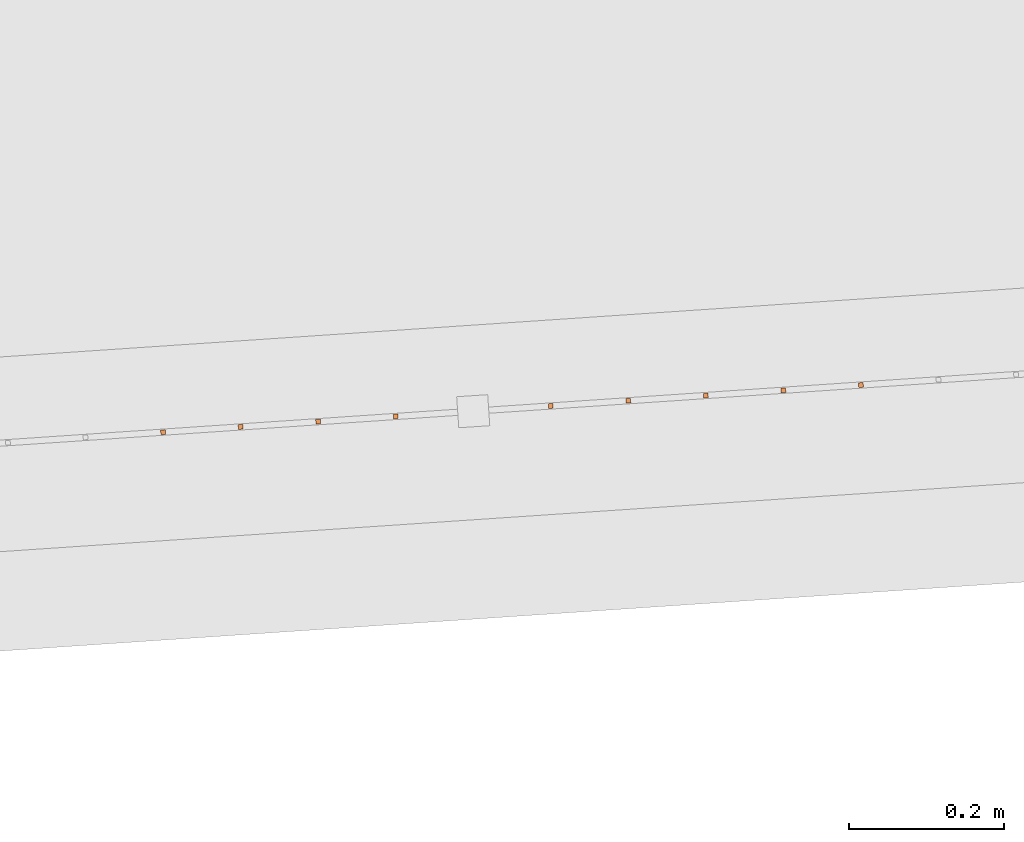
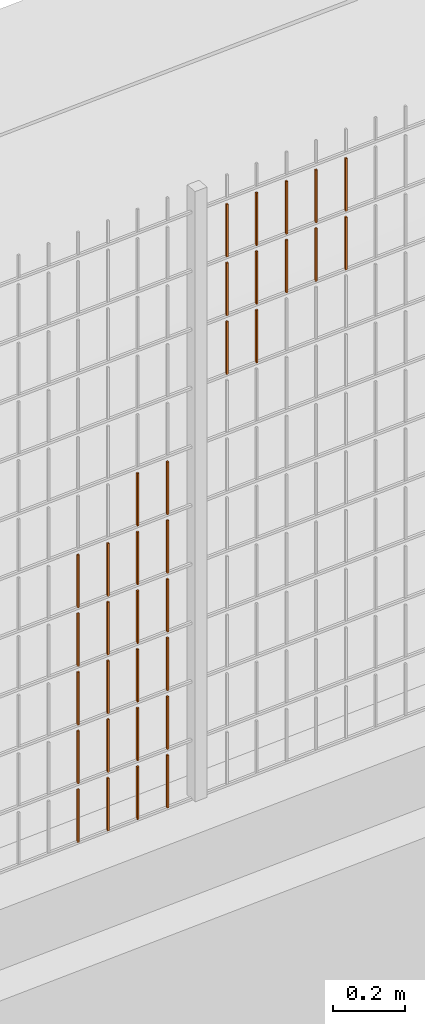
# One storey, part 203 of 1809: 34 proxies, 1 element without a shape of its own.
"""IFC2X3 building model written with IfcOpenShell, lengths in millimetres."""

from ifc_helpers import new_model, entity, si_unit, converted_unit, derived_unit, money_unit, direction, frame, origin_with_axes, place, context, subcontext, project, spatial, faceted_brep, source, transform, mapped, material, type_object, element, aggregate, save


model = new_model("IFC2X3")

# Units and contexts
model_context = context("Model", 3, precision=0.01, world=origin_with_axes(), true_north=direction((0.0, 1.0)))
body_context = subcontext(model_context, "Body", "Model", "MODEL_VIEW")
ifc_project = project(units=[si_unit("LENGTHUNIT", "METRE", prefix="MILLI"), si_unit("AREAUNIT", "SQUARE_METRE"), si_unit("VOLUMEUNIT", "CUBIC_METRE"), converted_unit("PLANEANGLEUNIT", "DEGREE", entity("IfcPlaneAngleMeasure", 0.0174532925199), si_unit("PLANEANGLEUNIT", "RADIAN"), dimensions=[0, 0, 0, 0, 0, 0, 0]), si_unit("SOLIDANGLEUNIT", "STERADIAN"), money_unit("EUR"), converted_unit("TIMEUNIT", "Year", entity("IfcTimeMeasure", 31556926.0), si_unit("TIMEUNIT", "SECOND"), dimensions=[0, 0, 1, 0, 0, 0, 0]), si_unit("MASSUNIT", "GRAM", prefix="KILO"), si_unit("THERMODYNAMICTEMPERATUREUNIT", "DEGREE_CELSIUS"), si_unit("LUMINOUSINTENSITYUNIT", "LUMEN"), si_unit("ENERGYUNIT", "JOULE", prefix="MEGA"), derived_unit("THERMALCONDUCTANCEUNIT", [(si_unit("POWERUNIT", "WATT"), 1), (si_unit("LENGTHUNIT", "METRE"), -1), (si_unit("THERMODYNAMICTEMPERATUREUNIT", "KELVIN"), -1)]), derived_unit("SPECIFICHEATCAPACITYUNIT", [(si_unit("ENERGYUNIT", "JOULE"), 1), (si_unit("MASSUNIT", "GRAM", prefix="KILO"), -1), (si_unit("THERMODYNAMICTEMPERATUREUNIT", "KELVIN"), -1)]), derived_unit("MASSDENSITYUNIT", [(si_unit("MASSUNIT", "GRAM", prefix="KILO"), 1), (si_unit("VOLUMEUNIT", "CUBIC_METRE"), -1)])], contexts=[model_context])

# Site, building, storey
site_placement = place(None, origin_with_axes())
site = spatial("IfcSite", under=ifc_project, at=site_placement, Name="Politse- ja Piirivalveameti ning Päästeameti ühishoone", CompositionType="ELEMENT")
building_placement = place(site_placement, origin_with_axes())
building = spatial("IfcBuilding", under=site, at=building_placement, Name="Politse- ja Piirivalveameti ning Päästeameti ühishoone", CompositionType="ELEMENT")
storey_placement = place(building_placement, origin_with_axes())
storey = spatial("IfcBuildingStorey", under=building, at=storey_placement, Name="Esimene korrus", CompositionType="ELEMENT", Elevation=0.0)

# Proxies
building_element_proxy_type_1 = type_object("IfcBuildingElementProxyType", Name="Railing Type", PredefinedType="NOTDEFINED")
proxy_1_placement = place(storey_placement, frame((89252.001212, -29183.4766571, 203.661247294), z_axis=(0.0, 0.0, 1.0), x_axis=(1.0, 0.0, 0.0)))
proxy_1 = element("IfcBuildingElementProxy", 1, at=proxy_1_placement, inside=storey, type_object=building_element_proxy_type_1, Name="PIIRDEAED")
ifc_material = material(Name="ET-03_Raud")
building_element_proxy_type_2 = type_object("IfcBuildingElementProxyType", Name="IfcBuildingElementProxy", PredefinedType="NOTDEFINED")
shared_shape_1 = source(origin_with_axes(), body_context, "Body", "Brep", [
    faceted_brep([(3.0, 3.0, -0.000752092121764), (-3.0, 3.0, -0.000752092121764), (-3.0, 3.0, 179.99926046), (3.0, 3.0, 179.99926046), (3.0, -3.0, 0.000752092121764), (-3.0, -3.0, 0.000752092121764), (-3.0, -3.0, 180.000764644), (3.0, -3.0, 180.000764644)], [[[0, 1, 2, 3]], [[0, 4, 5, 1]], [[1, 5, 6, 2]], [[3, 2, 6, 7]], [[4, 0, 3, 7]], [[5, 4, 7, 6]]]),
])
proxy_2_placement = place(proxy_1_placement, frame((-65078.3970664, -21693.5748864, 810.882226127), z_axis=(0.0, 0.0, 1.0), x_axis=(1.0, 0.0, 0.0)))
proxy_2 = element("IfcBuildingElementProxy", 2, at=proxy_2_placement, type_object=building_element_proxy_type_2, material=ifc_material, Name="BALUSTER - 001", context=body_context, shape_type="MappedRepresentation", body=[
    mapped(shared_shape_1, transform((0.0, 0.0, 0.0), x_axis=(-0.0673926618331, 0.997726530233, 0.0), y_axis=(-0.997726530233, -0.0673926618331, 0.0), z_axis=(0.0, 0.0, 1.0))),
])
shared_shape_2 = source(origin_with_axes(), body_context, "Body", "Brep", [
    faceted_brep([(3.0, 3.0, -0.000752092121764), (-3.0, 3.0, -0.000752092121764), (-3.0, 3.0, 179.99926046), (3.0, 3.0, 179.99926046), (3.0, -3.0, 0.000752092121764), (-3.0, -3.0, 0.000752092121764), (-3.0, -3.0, 180.000764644), (3.0, -3.0, 180.000764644)], [[[0, 1, 2, 3]], [[0, 4, 5, 1]], [[1, 5, 6, 2]], [[3, 2, 6, 7]], [[4, 0, 3, 7]], [[5, 4, 7, 6]]]),
])
proxy_3_placement = place(proxy_1_placement, frame((-65078.3970664, -21693.5748864, 210.882226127), z_axis=(0.0, 0.0, 1.0), x_axis=(1.0, 0.0, 0.0)))
proxy_3 = element("IfcBuildingElementProxy", 3, at=proxy_3_placement, type_object=building_element_proxy_type_2, material=ifc_material, Name="BALUSTER - 001", context=body_context, shape_type="MappedRepresentation", body=[
    mapped(shared_shape_2, transform((0.0, 0.0, 0.0), x_axis=(-0.0673926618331, 0.997726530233, 0.0), y_axis=(-0.997726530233, -0.0673926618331, 0.0), z_axis=(0.0, 0.0, 1.0))),
])
proxy_4_placement = place(proxy_1_placement, frame((-65078.3970664, -21693.5748864, 610.882226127), z_axis=(0.0, 0.0, 1.0), x_axis=(1.0, 0.0, 0.0)))
proxy_4 = element("IfcBuildingElementProxy", 4, at=proxy_4_placement, type_object=building_element_proxy_type_2, material=ifc_material, Name="BALUSTER - 001", context=body_context, shape_type="MappedRepresentation", body=[
    mapped(shared_shape_2, transform((0.0, 0.0, 0.0), x_axis=(-0.0673926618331, 0.997726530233, 0.0), y_axis=(-0.997726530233, -0.0673926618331, 0.0), z_axis=(0.0, 0.0, 1.0))),
])
shared_shape_3 = source(origin_with_axes(), body_context, "Body", "Brep", [
    faceted_brep([(3.0, 3.0, -0.000752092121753), (-3.0, 3.0, -0.000752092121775), (-3.0, 3.0, 179.99926046), (3.0, 3.0, 179.99926046), (3.0, -3.0, 0.000752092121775), (-3.0, -3.0, 0.000752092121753), (-3.0, -3.0, 180.000764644), (3.0, -3.0, 180.000764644)], [[[0, 1, 2, 3]], [[0, 4, 5, 1]], [[1, 5, 6, 2]], [[3, 2, 6, 7]], [[4, 0, 3, 7]], [[5, 4, 7, 6]]]),
])
proxy_5_placement = place(proxy_1_placement, frame((-64779.0791073, -21673.3570879, 10.9574353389), z_axis=(0.0, 0.0, 1.0), x_axis=(1.0, 0.0, 0.0)))
proxy_5 = element("IfcBuildingElementProxy", 5, at=proxy_5_placement, type_object=building_element_proxy_type_2, material=ifc_material, Name="BALUSTER - 001", context=body_context, shape_type="MappedRepresentation", body=[
    mapped(shared_shape_3, transform((0.0, 0.0, 0.0), x_axis=(-0.0673926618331, 0.997726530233, 0.0), y_axis=(-0.997726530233, -0.0673926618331, 0.0), z_axis=(0.0, 0.0, 1.0))),
])
proxy_6_placement = place(proxy_1_placement, frame((-64779.0791073, -21673.3570879, 210.957435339), z_axis=(0.0, 0.0, 1.0), x_axis=(1.0, 0.0, 0.0)))
proxy_6 = element("IfcBuildingElementProxy", 6, at=proxy_6_placement, type_object=building_element_proxy_type_2, material=ifc_material, Name="BALUSTER - 001", context=body_context, shape_type="MappedRepresentation", body=[
    mapped(shared_shape_3, transform((0.0, 0.0, 0.0), x_axis=(-0.0673926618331, 0.997726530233, 0.0), y_axis=(-0.997726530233, -0.0673926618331, 0.0), z_axis=(0.0, 0.0, 1.0))),
])
shared_shape_4 = source(origin_with_axes(), body_context, "Body", "Brep", [
    faceted_brep([(3.0, 3.0, -0.000752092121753), (-3.0, 3.0, -0.000752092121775), (-3.0, 3.0, 179.99926046), (3.0, 3.0, 179.99926046), (3.0, -3.0, 0.000752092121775), (-3.0, -3.0, 0.000752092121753), (-3.0, -3.0, 180.000764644), (3.0, -3.0, 180.000764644)], [[[0, 1, 2, 3]], [[0, 4, 5, 1]], [[1, 5, 6, 2]], [[3, 2, 6, 7]], [[4, 0, 3, 7]], [[5, 4, 7, 6]]]),
])
proxy_7_placement = place(proxy_1_placement, frame((-64779.0791073, -21673.3570879, 410.957435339), z_axis=(0.0, 0.0, 1.0), x_axis=(1.0, 0.0, 0.0)))
proxy_7 = element("IfcBuildingElementProxy", 7, at=proxy_7_placement, type_object=building_element_proxy_type_2, material=ifc_material, Name="BALUSTER - 001", context=body_context, shape_type="MappedRepresentation", body=[
    mapped(shared_shape_4, transform((0.0, 0.0, 0.0), x_axis=(-0.0673926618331, 0.997726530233, 0.0), y_axis=(-0.997726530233, -0.0673926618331, 0.0), z_axis=(0.0, 0.0, 1.0))),
])
shared_shape_5 = source(origin_with_axes(), body_context, "Body", "Brep", [
    faceted_brep([(3.0, 3.0, -0.000752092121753), (-3.0, 3.0, -0.000752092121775), (-3.0, 3.0, 179.99926046), (3.0, 3.0, 179.99926046), (3.0, -3.0, 0.000752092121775), (-3.0, -3.0, 0.000752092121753), (-3.0, -3.0, 180.000764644), (3.0, -3.0, 180.000764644)], [[[0, 1, 2, 3]], [[0, 4, 5, 1]], [[1, 5, 6, 2]], [[3, 2, 6, 7]], [[4, 0, 3, 7]], [[5, 4, 7, 6]]]),
])
proxy_8_placement = place(proxy_1_placement, frame((-64779.0791073, -21673.3570879, 610.957435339), z_axis=(0.0, 0.0, 1.0), x_axis=(1.0, 0.0, 0.0)))
proxy_8 = element("IfcBuildingElementProxy", 8, at=proxy_8_placement, type_object=building_element_proxy_type_2, material=ifc_material, Name="BALUSTER - 001", context=body_context, shape_type="MappedRepresentation", body=[
    mapped(shared_shape_5, transform((0.0, 0.0, 0.0), x_axis=(-0.0673926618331, 0.997726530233, 0.0), y_axis=(-0.997726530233, -0.0673926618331, 0.0), z_axis=(0.0, 0.0, 1.0))),
])
shared_shape_6 = source(origin_with_axes(), body_context, "Body", "Brep", [
    faceted_brep([(3.0, 3.0, -0.000752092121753), (-3.0, 3.0, -0.000752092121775), (-3.0, 3.0, 179.99926046), (3.0, 3.0, 179.99926046), (3.0, -3.0, 0.000752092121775), (-3.0, -3.0, 0.000752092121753), (-3.0, -3.0, 180.000764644), (3.0, -3.0, 180.000764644)], [[[0, 1, 2, 3]], [[0, 4, 5, 1]], [[1, 5, 6, 2]], [[3, 2, 6, 7]], [[4, 0, 3, 7]], [[5, 4, 7, 6]]]),
])
proxy_9_placement = place(proxy_1_placement, frame((-64779.0791073, -21673.3570879, 810.957435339), z_axis=(0.0, 0.0, 1.0), x_axis=(1.0, 0.0, 0.0)))
proxy_9 = element("IfcBuildingElementProxy", 9, at=proxy_9_placement, type_object=building_element_proxy_type_2, material=ifc_material, Name="BALUSTER - 001", context=body_context, shape_type="MappedRepresentation", body=[
    mapped(shared_shape_6, transform((0.0, 0.0, 0.0), x_axis=(-0.0673926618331, 0.997726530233, 0.0), y_axis=(-0.997726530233, -0.0673926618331, 0.0), z_axis=(0.0, 0.0, 1.0))),
])
shared_shape_7 = source(origin_with_axes(), body_context, "Body", "Brep", [
    faceted_brep([(3.0, 3.0, -0.000752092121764), (-3.0, 3.0, -0.000752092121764), (-3.0, 3.0, 179.99926046), (3.0, 3.0, 179.99926046), (3.0, -3.0, 0.000752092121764), (-3.0, -3.0, 0.000752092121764), (-3.0, -3.0, 180.000764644), (3.0, -3.0, 180.000764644)], [[[0, 1, 2, 3]], [[0, 4, 5, 1]], [[1, 5, 6, 2]], [[3, 2, 6, 7]], [[4, 0, 3, 7]], [[5, 4, 7, 6]]]),
])
proxy_10_placement = place(proxy_1_placement, frame((-65078.3970664, -21693.5748864, 10.8822261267), z_axis=(0.0, 0.0, 1.0), x_axis=(1.0, 0.0, 0.0)))
proxy_10 = element("IfcBuildingElementProxy", 10, at=proxy_10_placement, type_object=building_element_proxy_type_2, material=ifc_material, Name="BALUSTER - 001", context=body_context, shape_type="MappedRepresentation", body=[
    mapped(shared_shape_7, transform((0.0, 0.0, 0.0), x_axis=(-0.0673926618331, 0.997726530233, 0.0), y_axis=(-0.997726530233, -0.0673926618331, 0.0), z_axis=(0.0, 0.0, 1.0))),
])
shared_shape_8 = source(origin_with_axes(), body_context, "Body", "Brep", [
    faceted_brep([(3.0, 3.0, -0.000752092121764), (-3.0, 3.0, -0.000752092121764), (-3.0, 3.0, 179.99926046), (3.0, 3.0, 179.99926046), (3.0, -3.0, 0.000752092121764), (-3.0, -3.0, 0.000752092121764), (-3.0, -3.0, 180.000764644), (3.0, -3.0, 180.000764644)], [[[0, 1, 2, 3]], [[0, 4, 5, 1]], [[1, 5, 6, 2]], [[3, 2, 6, 7]], [[4, 0, 3, 7]], [[5, 4, 7, 6]]]),
])
proxy_11_placement = place(proxy_1_placement, frame((-65078.3970664, -21693.5748864, 410.882226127), z_axis=(0.0, 0.0, 1.0), x_axis=(1.0, 0.0, 0.0)))
proxy_11 = element("IfcBuildingElementProxy", 11, at=proxy_11_placement, type_object=building_element_proxy_type_2, material=ifc_material, Name="BALUSTER - 001", context=body_context, shape_type="MappedRepresentation", body=[
    mapped(shared_shape_8, transform((0.0, 0.0, 0.0), x_axis=(-0.0673926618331, 0.997726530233, 0.0), y_axis=(-0.997726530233, -0.0673926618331, 0.0), z_axis=(0.0, 0.0, 1.0))),
])
shared_shape_9 = source(origin_with_axes(), body_context, "Body", "Brep", [
    faceted_brep([(3.0, 3.0, -0.000752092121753), (-3.0, 3.0, -0.000752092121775), (-3.0, 3.0, 179.99926046), (3.0, 3.0, 179.99926046), (3.0, -3.0, 0.000752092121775), (-3.0, -3.0, 0.000752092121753), (-3.0, -3.0, 180.000764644), (3.0, -3.0, 180.000764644)], [[[0, 1, 2, 3]], [[0, 4, 5, 1]], [[1, 5, 6, 2]], [[3, 2, 6, 7]], [[4, 0, 3, 7]], [[5, 4, 7, 6]]]),
])
proxy_12_placement = place(proxy_1_placement, frame((-64180.4431892, -21632.9214908, 1611.10785376), z_axis=(0.0, 0.0, 1.0), x_axis=(1.0, 0.0, 0.0)))
proxy_12 = element("IfcBuildingElementProxy", 12, at=proxy_12_placement, type_object=building_element_proxy_type_2, material=ifc_material, Name="BALUSTER - 001", context=body_context, shape_type="MappedRepresentation", body=[
    mapped(shared_shape_9, transform((0.0, 0.0, 0.0), x_axis=(-0.0673926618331, 0.997726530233, 0.0), y_axis=(-0.997726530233, -0.0673926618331, 0.0), z_axis=(0.0, 0.0, 1.0))),
])
shared_shape_10 = source(origin_with_axes(), body_context, "Body", "Brep", [
    faceted_brep([(3.0, 3.0, -0.000752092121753), (-3.0, 3.0, -0.000752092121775), (-3.0, 3.0, 179.99926046), (3.0, 3.0, 179.99926046), (3.0, -3.0, 0.000752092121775), (-3.0, -3.0, 0.000752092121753), (-3.0, -3.0, 180.000764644), (3.0, -3.0, 180.000764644)], [[[0, 1, 2, 3]], [[0, 4, 5, 1]], [[1, 5, 6, 2]], [[3, 2, 6, 7]], [[4, 0, 3, 7]], [[5, 4, 7, 6]]]),
])
proxy_13_placement = place(proxy_1_placement, frame((-64180.4431892, -21632.9214908, 1811.10785376), z_axis=(0.0, 0.0, 1.0), x_axis=(1.0, 0.0, 0.0)))
proxy_13 = element("IfcBuildingElementProxy", 13, at=proxy_13_placement, type_object=building_element_proxy_type_2, material=ifc_material, Name="BALUSTER - 001", context=body_context, shape_type="MappedRepresentation", body=[
    mapped(shared_shape_10, transform((0.0, 0.0, 0.0), x_axis=(-0.0673926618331, 0.997726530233, 0.0), y_axis=(-0.997726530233, -0.0673926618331, 0.0), z_axis=(0.0, 0.0, 1.0))),
])
shared_shape_11 = source(origin_with_axes(), body_context, "Body", "Brep", [
    faceted_brep([(3.0, 3.0, -0.000752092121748), (-3.0, 3.0, -0.00075209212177), (-3.0, 3.0, 179.99926046), (3.0, 3.0, 179.99926046), (3.0, -3.0, 0.00075209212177), (-3.0, -3.0, 0.000752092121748), (-3.0, -3.0, 180.000764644), (3.0, -3.0, 180.000764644)], [[[0, 1, 2, 3]], [[0, 4, 5, 1]], [[1, 5, 6, 2]], [[3, 2, 6, 7]], [[4, 0, 3, 7]], [[5, 4, 7, 6]]]),
])
proxy_14_placement = place(proxy_1_placement, frame((-64978.6244134, -21686.8356202, 10.9072958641), z_axis=(0.0, 0.0, 1.0), x_axis=(1.0, 0.0, 0.0)))
proxy_14 = element("IfcBuildingElementProxy", 14, at=proxy_14_placement, type_object=building_element_proxy_type_2, material=ifc_material, Name="BALUSTER - 001", context=body_context, shape_type="MappedRepresentation", body=[
    mapped(shared_shape_11, transform((0.0, 0.0, 0.0), x_axis=(-0.0673926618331, 0.997726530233, 0.0), y_axis=(-0.997726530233, -0.0673926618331, 0.0), z_axis=(0.0, 0.0, 1.0))),
])
shared_shape_12 = source(origin_with_axes(), body_context, "Body", "Brep", [
    faceted_brep([(3.0, 3.0, -0.000752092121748), (-3.0, 3.0, -0.00075209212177), (-3.0, 3.0, 179.99926046), (3.0, 3.0, 179.99926046), (3.0, -3.0, 0.00075209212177), (-3.0, -3.0, 0.000752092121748), (-3.0, -3.0, 180.000764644), (3.0, -3.0, 180.000764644)], [[[0, 1, 2, 3]], [[0, 4, 5, 1]], [[1, 5, 6, 2]], [[3, 2, 6, 7]], [[4, 0, 3, 7]], [[5, 4, 7, 6]]]),
])
proxy_15_placement = place(proxy_1_placement, frame((-64978.6244134, -21686.8356202, 210.907295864), z_axis=(0.0, 0.0, 1.0), x_axis=(1.0, 0.0, 0.0)))
proxy_15 = element("IfcBuildingElementProxy", 15, at=proxy_15_placement, type_object=building_element_proxy_type_2, material=ifc_material, Name="BALUSTER - 001", context=body_context, shape_type="MappedRepresentation", body=[
    mapped(shared_shape_12, transform((0.0, 0.0, 0.0), x_axis=(-0.0673926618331, 0.997726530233, 0.0), y_axis=(-0.997726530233, -0.0673926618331, 0.0), z_axis=(0.0, 0.0, 1.0))),
])
proxy_16_placement = place(proxy_1_placement, frame((-64878.8517603, -21680.0963541, 410.932365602), z_axis=(0.0, 0.0, 1.0), x_axis=(1.0, 0.0, 0.0)))
proxy_16 = element("IfcBuildingElementProxy", 16, at=proxy_16_placement, type_object=building_element_proxy_type_2, material=ifc_material, Name="BALUSTER - 001", context=body_context, shape_type="MappedRepresentation", body=[
    mapped(shared_shape_12, transform((0.0, 0.0, 0.0), x_axis=(-0.0673926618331, 0.997726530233, 0.0), y_axis=(-0.997726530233, -0.0673926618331, 0.0), z_axis=(0.0, 0.0, 1.0))),
])
proxy_17_placement = place(proxy_1_placement, frame((-64978.6244134, -21686.8356202, 410.907295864), z_axis=(0.0, 0.0, 1.0), x_axis=(1.0, 0.0, 0.0)))
proxy_17 = element("IfcBuildingElementProxy", 17, at=proxy_17_placement, type_object=building_element_proxy_type_2, material=ifc_material, Name="BALUSTER - 001", context=body_context, shape_type="MappedRepresentation", body=[
    mapped(shared_shape_12, transform((0.0, 0.0, 0.0), x_axis=(-0.0673926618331, 0.997726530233, 0.0), y_axis=(-0.997726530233, -0.0673926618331, 0.0), z_axis=(0.0, 0.0, 1.0))),
])
proxy_18_placement = place(proxy_1_placement, frame((-64978.6244134, -21686.8356202, 610.907295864), z_axis=(0.0, 0.0, 1.0), x_axis=(1.0, 0.0, 0.0)))
proxy_18 = element("IfcBuildingElementProxy", 18, at=proxy_18_placement, type_object=building_element_proxy_type_2, material=ifc_material, Name="BALUSTER - 001", context=body_context, shape_type="MappedRepresentation", body=[
    mapped(shared_shape_12, transform((0.0, 0.0, 0.0), x_axis=(-0.0673926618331, 0.997726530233, 0.0), y_axis=(-0.997726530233, -0.0673926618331, 0.0), z_axis=(0.0, 0.0, 1.0))),
])
shared_shape_13 = source(origin_with_axes(), body_context, "Body", "Brep", [
    faceted_brep([(3.0, 3.0, -0.000752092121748), (-3.0, 3.0, -0.00075209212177), (-3.0, 3.0, 179.99926046), (3.0, 3.0, 179.99926046), (3.0, -3.0, 0.00075209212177), (-3.0, -3.0, 0.000752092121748), (-3.0, -3.0, 180.000764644), (3.0, -3.0, 180.000764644)], [[[0, 1, 2, 3]], [[0, 4, 5, 1]], [[1, 5, 6, 2]], [[3, 2, 6, 7]], [[4, 0, 3, 7]], [[5, 4, 7, 6]]]),
])
proxy_19_placement = place(proxy_1_placement, frame((-64878.8517603, -21680.0963541, 210.932365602), z_axis=(0.0, 0.0, 1.0), x_axis=(1.0, 0.0, 0.0)))
proxy_19 = element("IfcBuildingElementProxy", 19, at=proxy_19_placement, type_object=building_element_proxy_type_2, material=ifc_material, Name="BALUSTER - 001", context=body_context, shape_type="MappedRepresentation", body=[
    mapped(shared_shape_13, transform((0.0, 0.0, 0.0), x_axis=(-0.0673926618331, 0.997726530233, 0.0), y_axis=(-0.997726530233, -0.0673926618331, 0.0), z_axis=(0.0, 0.0, 1.0))),
])
shared_shape_14 = source(origin_with_axes(), body_context, "Body", "Brep", [
    faceted_brep([(3.0, 3.0, -0.000752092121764), (-3.0, 3.0, -0.000752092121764), (-3.0, 3.0, 179.99926046), (3.0, 3.0, 179.99926046), (3.0, -3.0, 0.000752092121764), (-3.0, -3.0, 0.000752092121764), (-3.0, -3.0, 180.000764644), (3.0, -3.0, 180.000764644)], [[[0, 1, 2, 3]], [[0, 4, 5, 1]], [[1, 5, 6, 2]], [[3, 2, 6, 7]], [[4, 0, 3, 7]], [[5, 4, 7, 6]]]),
])
proxy_20_placement = place(proxy_1_placement, frame((-64379.9884952, -21646.4000231, 1811.05771429), z_axis=(0.0, 0.0, 1.0), x_axis=(1.0, 0.0, 0.0)))
proxy_20 = element("IfcBuildingElementProxy", 20, at=proxy_20_placement, type_object=building_element_proxy_type_2, material=ifc_material, Name="BALUSTER - 001", context=body_context, shape_type="MappedRepresentation", body=[
    mapped(shared_shape_14, transform((0.0, 0.0, 0.0), x_axis=(-0.0673926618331, 0.997726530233, 0.0), y_axis=(-0.997726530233, -0.0673926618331, 0.0), z_axis=(0.0, 0.0, 1.0))),
])
shared_shape_15 = source(origin_with_axes(), body_context, "Body", "Brep", [
    faceted_brep([(3.0, 3.0, -0.000752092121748), (-3.0, 3.0, -0.00075209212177), (-3.0, 3.0, 179.99926046), (3.0, 3.0, 179.99926046), (3.0, -3.0, 0.00075209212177), (-3.0, -3.0, 0.000752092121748), (-3.0, -3.0, 180.000764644), (3.0, -3.0, 180.000764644)], [[[0, 1, 2, 3]], [[0, 4, 5, 1]], [[1, 5, 6, 2]], [[3, 2, 6, 7]], [[4, 0, 3, 7]], [[5, 4, 7, 6]]]),
])
proxy_21_placement = place(proxy_1_placement, frame((-64878.8517603, -21680.0963541, 610.932365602), z_axis=(0.0, 0.0, 1.0), x_axis=(1.0, 0.0, 0.0)))
proxy_21 = element("IfcBuildingElementProxy", 21, at=proxy_21_placement, type_object=building_element_proxy_type_2, material=ifc_material, Name="BALUSTER - 001", context=body_context, shape_type="MappedRepresentation", body=[
    mapped(shared_shape_15, transform((0.0, 0.0, 0.0), x_axis=(-0.0673926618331, 0.997726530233, 0.0), y_axis=(-0.997726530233, -0.0673926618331, 0.0), z_axis=(0.0, 0.0, 1.0))),
])
shared_shape_16 = source(origin_with_axes(), body_context, "Body", "Brep", [
    faceted_brep([(3.0, 3.0, -0.000752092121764), (-3.0, 3.0, -0.000752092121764), (-3.0, 3.0, 179.99926046), (3.0, 3.0, 179.99926046), (3.0, -3.0, 0.000752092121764), (-3.0, -3.0, 0.000752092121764), (-3.0, -3.0, 180.000764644), (3.0, -3.0, 180.000764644)], [[[0, 1, 2, 3]], [[0, 4, 5, 1]], [[1, 5, 6, 2]], [[3, 2, 6, 7]], [[4, 0, 3, 7]], [[5, 4, 7, 6]]]),
])
proxy_22_placement = place(proxy_1_placement, frame((-64479.7611482, -21653.1392893, 1811.03264455), z_axis=(0.0, 0.0, 1.0), x_axis=(1.0, 0.0, 0.0)))
proxy_22 = element("IfcBuildingElementProxy", 22, at=proxy_22_placement, type_object=building_element_proxy_type_2, material=ifc_material, Name="BALUSTER - 001", context=body_context, shape_type="MappedRepresentation", body=[
    mapped(shared_shape_16, transform((0.0, 0.0, 0.0), x_axis=(-0.0673926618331, 0.997726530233, 0.0), y_axis=(-0.997726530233, -0.0673926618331, 0.0), z_axis=(0.0, 0.0, 1.0))),
])
shared_shape_17 = source(origin_with_axes(), body_context, "Body", "Brep", [
    faceted_brep([(3.0, 3.0, -0.000752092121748), (-3.0, 3.0, -0.00075209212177), (-3.0, 3.0, 179.99926046), (3.0, 3.0, 179.99926046), (3.0, -3.0, 0.00075209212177), (-3.0, -3.0, 0.000752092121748), (-3.0, -3.0, 180.000764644), (3.0, -3.0, 180.000764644)], [[[0, 1, 2, 3]], [[0, 4, 5, 1]], [[1, 5, 6, 2]], [[3, 2, 6, 7]], [[4, 0, 3, 7]], [[5, 4, 7, 6]]]),
])
proxy_23_placement = place(proxy_1_placement, frame((-64878.8517603, -21680.0963541, 810.932365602), z_axis=(0.0, 0.0, 1.0), x_axis=(1.0, 0.0, 0.0)))
proxy_23 = element("IfcBuildingElementProxy", 23, at=proxy_23_placement, type_object=building_element_proxy_type_2, material=ifc_material, Name="BALUSTER - 001", context=body_context, shape_type="MappedRepresentation", body=[
    mapped(shared_shape_17, transform((0.0, 0.0, 0.0), x_axis=(-0.0673926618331, 0.997726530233, 0.0), y_axis=(-0.997726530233, -0.0673926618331, 0.0), z_axis=(0.0, 0.0, 1.0))),
])
proxy_24_placement = place(proxy_1_placement, frame((-64978.6244134, -21686.8356202, 810.907295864), z_axis=(0.0, 0.0, 1.0), x_axis=(1.0, 0.0, 0.0)))
proxy_24 = element("IfcBuildingElementProxy", 24, at=proxy_24_placement, type_object=building_element_proxy_type_2, material=ifc_material, Name="BALUSTER - 001", context=body_context, shape_type="MappedRepresentation", body=[
    mapped(shared_shape_17, transform((0.0, 0.0, 0.0), x_axis=(-0.0673926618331, 0.997726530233, 0.0), y_axis=(-0.997726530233, -0.0673926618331, 0.0), z_axis=(0.0, 0.0, 1.0))),
])
shared_shape_18 = source(origin_with_axes(), body_context, "Body", "Brep", [
    faceted_brep([(3.0, 3.0, -0.000752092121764), (-3.0, 3.0, -0.000752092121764), (-3.0, 3.0, 179.99926046), (3.0, 3.0, 179.99926046), (3.0, -3.0, 0.000752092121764), (-3.0, -3.0, 0.000752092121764), (-3.0, -3.0, 180.000764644), (3.0, -3.0, 180.000764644)], [[[0, 1, 2, 3]], [[0, 4, 5, 1]], [[1, 5, 6, 2]], [[3, 2, 6, 7]], [[4, 0, 3, 7]], [[5, 4, 7, 6]]]),
])
proxy_25_placement = place(proxy_1_placement, frame((-64379.9884952, -21646.4000231, 1611.05771429), z_axis=(0.0, 0.0, 1.0), x_axis=(1.0, 0.0, 0.0)))
proxy_25 = element("IfcBuildingElementProxy", 25, at=proxy_25_placement, type_object=building_element_proxy_type_2, material=ifc_material, Name="BALUSTER - 001", context=body_context, shape_type="MappedRepresentation", body=[
    mapped(shared_shape_18, transform((0.0, 0.0, 0.0), x_axis=(-0.0673926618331, 0.997726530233, 0.0), y_axis=(-0.997726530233, -0.0673926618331, 0.0), z_axis=(0.0, 0.0, 1.0))),
])
shared_shape_19 = source(origin_with_axes(), body_context, "Body", "Brep", [
    faceted_brep([(3.0, 3.0, -0.000752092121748), (-3.0, 3.0, -0.00075209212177), (-3.0, 3.0, 179.99926046), (3.0, 3.0, 179.99926046), (3.0, -3.0, 0.00075209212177), (-3.0, -3.0, 0.000752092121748), (-3.0, -3.0, 180.000764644), (3.0, -3.0, 180.000764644)], [[[0, 1, 2, 3]], [[0, 4, 5, 1]], [[1, 5, 6, 2]], [[3, 2, 6, 7]], [[4, 0, 3, 7]], [[5, 4, 7, 6]]]),
])
proxy_26_placement = place(proxy_1_placement, frame((-64878.8517603, -21680.0963541, 10.9323656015), z_axis=(0.0, 0.0, 1.0), x_axis=(1.0, 0.0, 0.0)))
proxy_26 = element("IfcBuildingElementProxy", 26, at=proxy_26_placement, type_object=building_element_proxy_type_2, material=ifc_material, Name="BALUSTER - 001", context=body_context, shape_type="MappedRepresentation", body=[
    mapped(shared_shape_19, transform((0.0, 0.0, 0.0), x_axis=(-0.0673926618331, 0.997726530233, 0.0), y_axis=(-0.997726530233, -0.0673926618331, 0.0), z_axis=(0.0, 0.0, 1.0))),
])
shared_shape_20 = source(origin_with_axes(), body_context, "Body", "Brep", [
    faceted_brep([(3.0, 3.0, -0.000752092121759), (-3.0, 3.0, -0.000752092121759), (-3.0, 3.0, 179.99926046), (3.0, 3.0, 179.99926046), (3.0, -3.0, 0.000752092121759), (-3.0, -3.0, 0.000752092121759), (-3.0, -3.0, 180.000764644), (3.0, -3.0, 180.000764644)], [[[0, 1, 2, 3]], [[0, 4, 5, 1]], [[1, 5, 6, 2]], [[3, 2, 6, 7]], [[4, 0, 3, 7]], [[5, 4, 7, 6]]]),
])
proxy_27_placement = place(proxy_1_placement, frame((-64280.2158422, -21639.660757, 1611.08278403), z_axis=(0.0, 0.0, 1.0), x_axis=(1.0, 0.0, 0.0)))
proxy_27 = element("IfcBuildingElementProxy", 27, at=proxy_27_placement, type_object=building_element_proxy_type_2, material=ifc_material, Name="BALUSTER - 001", context=body_context, shape_type="MappedRepresentation", body=[
    mapped(shared_shape_20, transform((0.0, 0.0, 0.0), x_axis=(-0.0673926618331, 0.997726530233, 0.0), y_axis=(-0.997726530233, -0.0673926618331, 0.0), z_axis=(0.0, 0.0, 1.0))),
])
shared_shape_21 = source(origin_with_axes(), body_context, "Body", "Brep", [
    faceted_brep([(3.0, 3.0, -0.000752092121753), (-3.0, 3.0, -0.000752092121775), (-3.0, 3.0, 179.99926046), (3.0, 3.0, 179.99926046), (3.0, -3.0, 0.000752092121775), (-3.0, -3.0, 0.000752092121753), (-3.0, -3.0, 180.000764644), (3.0, -3.0, 180.000764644)], [[[0, 1, 2, 3]], [[0, 4, 5, 1]], [[1, 5, 6, 2]], [[3, 2, 6, 7]], [[4, 0, 3, 7]], [[5, 4, 7, 6]]]),
])
proxy_28_placement = place(proxy_1_placement, frame((-64579.5338013, -21659.8785555, 1811.00757481), z_axis=(0.0, 0.0, 1.0), x_axis=(1.0, 0.0, 0.0)))
proxy_28 = element("IfcBuildingElementProxy", 28, at=proxy_28_placement, type_object=building_element_proxy_type_2, material=ifc_material, Name="BALUSTER - 001", context=body_context, shape_type="MappedRepresentation", body=[
    mapped(shared_shape_21, transform((0.0, 0.0, 0.0), x_axis=(-0.0673926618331, 0.997726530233, 0.0), y_axis=(-0.997726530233, -0.0673926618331, 0.0), z_axis=(0.0, 0.0, 1.0))),
])
shared_shape_22 = source(origin_with_axes(), body_context, "Body", "Brep", [
    faceted_brep([(3.0, 3.0, -0.000752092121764), (-3.0, 3.0, -0.000752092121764), (-3.0, 3.0, 179.99926046), (3.0, 3.0, 179.99926046), (3.0, -3.0, 0.000752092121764), (-3.0, -3.0, 0.000752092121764), (-3.0, -3.0, 180.000764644), (3.0, -3.0, 180.000764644)], [[[0, 1, 2, 3]], [[0, 4, 5, 1]], [[1, 5, 6, 2]], [[3, 2, 6, 7]], [[4, 0, 3, 7]], [[5, 4, 7, 6]]]),
])
proxy_29_placement = place(proxy_1_placement, frame((-64479.7611482, -21653.1392893, 1411.03264455), z_axis=(0.0, 0.0, 1.0), x_axis=(1.0, 0.0, 0.0)))
proxy_29 = element("IfcBuildingElementProxy", 29, at=proxy_29_placement, type_object=building_element_proxy_type_2, material=ifc_material, Name="BALUSTER - 001", context=body_context, shape_type="MappedRepresentation", body=[
    mapped(shared_shape_22, transform((0.0, 0.0, 0.0), x_axis=(-0.0673926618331, 0.997726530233, 0.0), y_axis=(-0.997726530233, -0.0673926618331, 0.0), z_axis=(0.0, 0.0, 1.0))),
])
proxy_30_placement = place(proxy_1_placement, frame((-64479.7611482, -21653.1392893, 1611.03264455), z_axis=(0.0, 0.0, 1.0), x_axis=(1.0, 0.0, 0.0)))
proxy_30 = element("IfcBuildingElementProxy", 30, at=proxy_30_placement, type_object=building_element_proxy_type_2, material=ifc_material, Name="BALUSTER - 001", context=body_context, shape_type="MappedRepresentation", body=[
    mapped(shared_shape_22, transform((0.0, 0.0, 0.0), x_axis=(-0.0673926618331, 0.997726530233, 0.0), y_axis=(-0.997726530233, -0.0673926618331, 0.0), z_axis=(0.0, 0.0, 1.0))),
])
shared_shape_23 = source(origin_with_axes(), body_context, "Body", "Brep", [
    faceted_brep([(3.0, 3.0, -0.000752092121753), (-3.0, 3.0, -0.000752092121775), (-3.0, 3.0, 179.99926046), (3.0, 3.0, 179.99926046), (3.0, -3.0, 0.000752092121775), (-3.0, -3.0, 0.000752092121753), (-3.0, -3.0, 180.000764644), (3.0, -3.0, 180.000764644)], [[[0, 1, 2, 3]], [[0, 4, 5, 1]], [[1, 5, 6, 2]], [[3, 2, 6, 7]], [[4, 0, 3, 7]], [[5, 4, 7, 6]]]),
])
proxy_31_placement = place(proxy_1_placement, frame((-64579.5338013, -21659.8785555, 1411.00757481), z_axis=(0.0, 0.0, 1.0), x_axis=(1.0, 0.0, 0.0)))
proxy_31 = element("IfcBuildingElementProxy", 31, at=proxy_31_placement, type_object=building_element_proxy_type_2, material=ifc_material, Name="BALUSTER - 001", context=body_context, shape_type="MappedRepresentation", body=[
    mapped(shared_shape_23, transform((0.0, 0.0, 0.0), x_axis=(-0.0673926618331, 0.997726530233, 0.0), y_axis=(-0.997726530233, -0.0673926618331, 0.0), z_axis=(0.0, 0.0, 1.0))),
])
proxy_32_placement = place(proxy_1_placement, frame((-64579.5338013, -21659.8785555, 1611.00757481), z_axis=(0.0, 0.0, 1.0), x_axis=(1.0, 0.0, 0.0)))
proxy_32 = element("IfcBuildingElementProxy", 32, at=proxy_32_placement, type_object=building_element_proxy_type_2, material=ifc_material, Name="BALUSTER - 001", context=body_context, shape_type="MappedRepresentation", body=[
    mapped(shared_shape_23, transform((0.0, 0.0, 0.0), x_axis=(-0.0673926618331, 0.997726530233, 0.0), y_axis=(-0.997726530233, -0.0673926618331, 0.0), z_axis=(0.0, 0.0, 1.0))),
])
shared_shape_24 = source(origin_with_axes(), body_context, "Body", "Brep", [
    faceted_brep([(3.0, 3.0, -0.000752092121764), (-3.0, 3.0, -0.000752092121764), (-3.0, 3.0, 179.99926046), (3.0, 3.0, 179.99926046), (3.0, -3.0, 0.000752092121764), (-3.0, -3.0, 0.000752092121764), (-3.0, -3.0, 180.000764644), (3.0, -3.0, 180.000764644)], [[[0, 1, 2, 3]], [[0, 4, 5, 1]], [[1, 5, 6, 2]], [[3, 2, 6, 7]], [[4, 0, 3, 7]], [[5, 4, 7, 6]]]),
])
proxy_33_placement = place(proxy_1_placement, frame((-64280.2158422, -21639.660757, 1811.08278403), z_axis=(0.0, 0.0, 1.0), x_axis=(1.0, 0.0, 0.0)))
proxy_33 = element("IfcBuildingElementProxy", 33, at=proxy_33_placement, type_object=building_element_proxy_type_2, material=ifc_material, Name="BALUSTER - 001", context=body_context, shape_type="MappedRepresentation", body=[
    mapped(shared_shape_24, transform((0.0, 0.0, 0.0), x_axis=(-0.0673926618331, 0.997726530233, 0.0), y_axis=(-0.997726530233, -0.0673926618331, 0.0), z_axis=(0.0, 0.0, 1.0))),
])
shared_shape_25 = source(origin_with_axes(), body_context, "Body", "Brep", [
    faceted_brep([(3.0, 3.0, -0.000752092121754), (-3.0, 3.0, -0.000752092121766), (-3.00000000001, 3.00000000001, 179.99926046), (2.99999999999, 3.00000000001, 179.99926046), (3.0, -3.0, 0.000752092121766), (-3.0, -3.0, 0.000752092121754), (-3.00000000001, -2.99999999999, 180.000764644), (2.99999999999, -2.99999999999, 180.000764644)], [[[0, 1, 2, 3]], [[0, 4, 5, 1]], [[1, 5, 6, 2]], [[3, 2, 6, 7]], [[4, 0, 3, 7]], [[5, 4, 7, 6]]]),
])
proxy_34_placement = place(proxy_1_placement, frame((-64779.0791073, -21673.3570879, 1010.95743534), z_axis=(0.0, 0.0, 1.0), x_axis=(1.0, 0.0, 0.0)))
proxy_34 = element("IfcBuildingElementProxy", 34, at=proxy_34_placement, type_object=building_element_proxy_type_2, material=ifc_material, Name="BALUSTER - 001", context=body_context, shape_type="MappedRepresentation", body=[
    mapped(shared_shape_25, transform((0.0, 0.0, 0.0), x_axis=(-0.0673926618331, 0.997726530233, 0.0), y_axis=(-0.997726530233, -0.0673926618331, 0.0), z_axis=(0.0, 0.0, 1.0))),
])
shared_shape_26 = source(origin_with_axes(), body_context, "Body", "Brep", [
    faceted_brep([(3.0, 3.0, -0.000752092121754), (-3.0, 3.0, -0.000752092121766), (-3.00000000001, 3.00000000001, 179.99926046), (2.99999999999, 3.00000000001, 179.99926046), (3.0, -3.0, 0.000752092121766), (-3.0, -3.0, 0.000752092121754), (-3.00000000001, -2.99999999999, 180.000764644), (2.99999999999, -2.99999999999, 180.000764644)], [[[0, 1, 2, 3]], [[0, 4, 5, 1]], [[1, 5, 6, 2]], [[3, 2, 6, 7]], [[4, 0, 3, 7]], [[5, 4, 7, 6]]]),
])
proxy_35_placement = place(proxy_1_placement, frame((-64878.8517603, -21680.0963541, 1010.9323656), z_axis=(0.0, 0.0, 1.0), x_axis=(1.0, 0.0, 0.0)))
proxy_35 = element("IfcBuildingElementProxy", 35, at=proxy_35_placement, type_object=building_element_proxy_type_2, material=ifc_material, Name="BALUSTER - 001", context=body_context, shape_type="MappedRepresentation", body=[
    mapped(shared_shape_26, transform((0.0, 0.0, 0.0), x_axis=(-0.0673926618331, 0.997726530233, 0.0), y_axis=(-0.997726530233, -0.0673926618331, 0.0), z_axis=(0.0, 0.0, 1.0))),
])
aggregate(proxy_1, [proxy_29, proxy_31, proxy_12, proxy_27, proxy_25, proxy_30, proxy_32, proxy_13, proxy_33, proxy_20, proxy_22, proxy_28, proxy_5, proxy_26, proxy_14, proxy_10, proxy_6, proxy_19, proxy_15, proxy_3, proxy_7, proxy_16, proxy_17, proxy_11, proxy_8, proxy_21, proxy_18, proxy_4, proxy_9, proxy_23, proxy_24, proxy_2, proxy_34, proxy_35])

save(model, "model.ifc")
